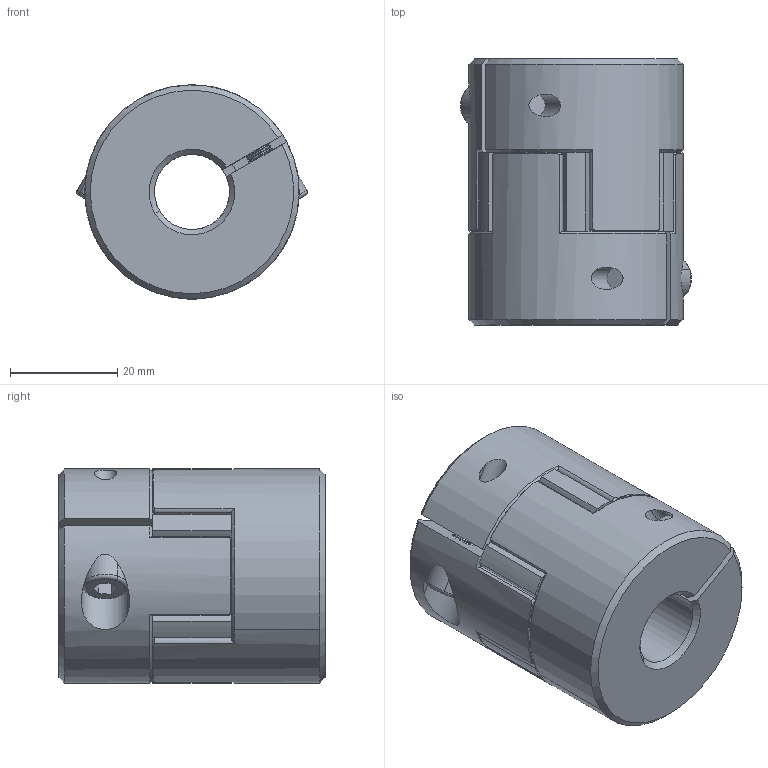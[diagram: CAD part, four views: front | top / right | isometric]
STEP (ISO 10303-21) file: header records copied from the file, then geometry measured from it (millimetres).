
FILE_DESCRIPTION (( 'STEP AP203' ), '1' );
FILE_NAME ('LF-B-D40L50-14-14.STEP', '2021-10-25T02:46:00', ( '' ), ( '' ), 'SwSTEP 2.0', 'SolidWorks 2018', '' );
FILE_SCHEMA (( 'CONFIG_CONTROL_DESIGN' ));
Length unit declared in the file: millimetre
Products named in the file (1): LF-B-D40L50-14-14
Bounding box: 43.11 x 49.7 x 40 mm (x, y, z)
Volume: 51544.3 mm3; surface area: 14651.8 mm2
Topology: 1 solids, 7 shells, 471 faces, 1117 edges, 662 vertices
Faces by surface type: cone 170, cylinder 169, plane 128, torus 4
Entity records: 13972 total; most frequent: CARTESIAN_POINT 2895, DIRECTION 2509, ORIENTED_EDGE 2226, EDGE_CURVE 1113, AXIS2_PLACEMENT_3D 1040, VERTEX_POINT 662, CIRCLE 568, EDGE_LOOP 487
